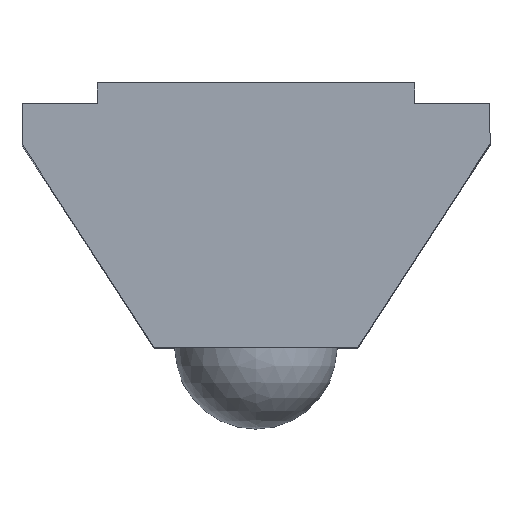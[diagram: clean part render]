
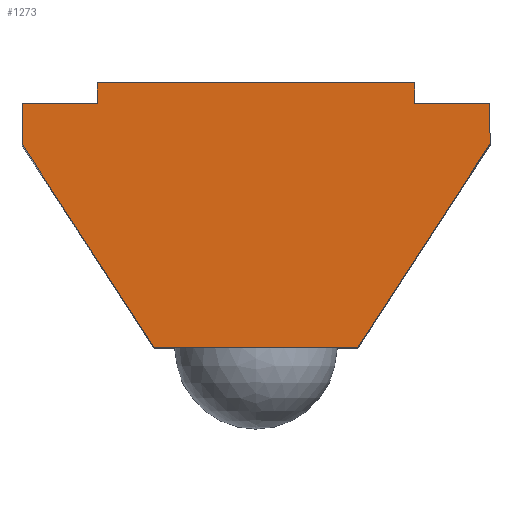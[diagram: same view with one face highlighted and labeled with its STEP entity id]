
A CAD part, top view. The second image highlights one B-rep face of the part: STEP entity #1273.
In plain terms, the highlighted planar face has unit normal (0, 0, 1).
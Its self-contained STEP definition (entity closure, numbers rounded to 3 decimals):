
#41 = LINE ( 'NONE', #2042, #3084 ) ;
#78 = CARTESIAN_POINT ( 'NONE',  ( -5.748, 5., 10. ) ) ;
#120 = CARTESIAN_POINT ( 'NONE',  ( -5.748, 6., 10. ) ) ;
#134 = CARTESIAN_POINT ( 'NONE',  ( 5.752, 6., 10. ) ) ;
#135 = DIRECTION ( 'NONE',  ( 0., 1., 0. ) ) ;
#148 = VERTEX_POINT ( 'NONE', #2177 ) ;
#174 = VERTEX_POINT ( 'NONE', #1346 ) ;
#345 = LINE ( 'NONE', #3970, #1330 ) ;
#374 = ORIENTED_EDGE ( 'NONE', *, *, #2287, .T. ) ;
#411 = EDGE_LOOP ( 'NONE', ( #2084, #3698, #1623, #3915, #2563, #923, #3195, #3989, #3938, #374 ) ) ;
#419 = CARTESIAN_POINT ( 'NONE',  ( -3.898, 6.5, 10. ) ) ;
#498 = LINE ( 'NONE', #78, #2019 ) ;
#503 = VERTEX_POINT ( 'NONE', #419 ) ;
#557 = CARTESIAN_POINT ( 'NONE',  ( 5.752, 5., 10. ) ) ;
#703 = VECTOR ( 'NONE', #3746, 1000. ) ;
#816 = EDGE_CURVE ( 'NONE', #1854, #1733, #977, .T. ) ;
#818 = CARTESIAN_POINT ( 'NONE',  ( -2.5, 0., 10. ) ) ;
#831 = VERTEX_POINT ( 'NONE', #2956 ) ;
#868 = EDGE_CURVE ( 'NONE', #2696, #3467, #3760, .T. ) ;
#923 = ORIENTED_EDGE ( 'NONE', *, *, #3054, .T. ) ;
#926 = EDGE_CURVE ( 'NONE', #174, #148, #3667, .T. ) ;
#964 = EDGE_CURVE ( 'NONE', #831, #1227, #2449, .T. ) ;
#977 = LINE ( 'NONE', #557, #3046 ) ;
#1227 = VERTEX_POINT ( 'NONE', #2694 ) ;
#1273 = ADVANCED_FACE ( 'NONE', ( #1913 ), #3323, .F. ) ;
#1306 = DIRECTION ( 'NONE',  ( 1., 0., 0. ) ) ;
#1330 = VECTOR ( 'NONE', #3565, 1000. ) ;
#1346 = CARTESIAN_POINT ( 'NONE',  ( -5.748, 6., 10. ) ) ;
#1438 = VECTOR ( 'NONE', #1306, 1000. ) ;
#1564 = VERTEX_POINT ( 'NONE', #2426 ) ;
#1616 = DIRECTION ( 'NONE',  ( 0., -1., 0. ) ) ;
#1620 = DIRECTION ( 'NONE',  ( 0.545, 0.838, 0. ) ) ;
#1622 = AXIS2_PLACEMENT_3D ( 'NONE', #2914, #2501, #2092 ) ;
#1623 = ORIENTED_EDGE ( 'NONE', *, *, #868, .T. ) ;
#1726 = CARTESIAN_POINT ( 'NONE',  ( 3.902, 6.5, 10. ) ) ;
#1733 = VERTEX_POINT ( 'NONE', #134 ) ;
#1805 = DIRECTION ( 'NONE',  ( 0., -1., 0. ) ) ;
#1854 = VERTEX_POINT ( 'NONE', #2858 ) ;
#1913 = FACE_OUTER_BOUND ( 'NONE', #411, .T. ) ;
#2019 = VECTOR ( 'NONE', #3704, 1000. ) ;
#2038 = CARTESIAN_POINT ( 'NONE',  ( 3.902, 6.5, 10. ) ) ;
#2042 = CARTESIAN_POINT ( 'NONE',  ( 2.5, 0., 10. ) ) ;
#2084 = ORIENTED_EDGE ( 'NONE', *, *, #926, .T. ) ;
#2092 = DIRECTION ( 'NONE',  ( -1., 0., 0. ) ) ;
#2135 = DIRECTION ( 'NONE',  ( 1., 0., 0. ) ) ;
#2144 = LINE ( 'NONE', #1726, #1438 ) ;
#2177 = CARTESIAN_POINT ( 'NONE',  ( -5.748, 5., 10. ) ) ;
#2215 = CARTESIAN_POINT ( 'NONE',  ( -3.898, 6.5, 10. ) ) ;
#2223 = VECTOR ( 'NONE', #1616, 1000. ) ;
#2287 = EDGE_CURVE ( 'NONE', #1564, #174, #345, .T. ) ;
#2426 = CARTESIAN_POINT ( 'NONE',  ( -3.898, 6., 10. ) ) ;
#2449 = LINE ( 'NONE', #2038, #2223 ) ;
#2488 = EDGE_CURVE ( 'NONE', #503, #831, #2144, .T. ) ;
#2501 = DIRECTION ( 'NONE',  ( 0., 0., -1. ) ) ;
#2543 = CARTESIAN_POINT ( 'NONE',  ( -2.5, 0., 10. ) ) ;
#2563 = ORIENTED_EDGE ( 'NONE', *, *, #816, .T. ) ;
#2564 = VECTOR ( 'NONE', #1805, 1000. ) ;
#2625 = LINE ( 'NONE', #2215, #2564 ) ;
#2694 = CARTESIAN_POINT ( 'NONE',  ( 3.902, 6., 10. ) ) ;
#2696 = VERTEX_POINT ( 'NONE', #818 ) ;
#2858 = CARTESIAN_POINT ( 'NONE',  ( 5.752, 5., 10. ) ) ;
#2859 = DIRECTION ( 'NONE',  ( 0., -1., 0. ) ) ;
#2914 = CARTESIAN_POINT ( 'NONE',  ( 0., 0., 10. ) ) ;
#2940 = EDGE_CURVE ( 'NONE', #503, #1564, #2625, .T. ) ;
#2956 = CARTESIAN_POINT ( 'NONE',  ( 3.902, 6.5, 10. ) ) ;
#3036 = LINE ( 'NONE', #120, #703 ) ;
#3046 = VECTOR ( 'NONE', #135, 1000. ) ;
#3054 = EDGE_CURVE ( 'NONE', #1733, #1227, #3036, .T. ) ;
#3056 = CARTESIAN_POINT ( 'NONE',  ( 2.5, 0., 10. ) ) ;
#3084 = VECTOR ( 'NONE', #1620, 1000. ) ;
#3165 = EDGE_CURVE ( 'NONE', #148, #2696, #498, .T. ) ;
#3195 = ORIENTED_EDGE ( 'NONE', *, *, #964, .F. ) ;
#3255 = VECTOR ( 'NONE', #2135, 1000. ) ;
#3270 = CARTESIAN_POINT ( 'NONE',  ( -5.748, 5., 10. ) ) ;
#3323 = PLANE ( 'NONE',  #1622 ) ;
#3467 = VERTEX_POINT ( 'NONE', #3056 ) ;
#3516 = EDGE_CURVE ( 'NONE', #3467, #1854, #41, .T. ) ;
#3559 = VECTOR ( 'NONE', #2859, 1000. ) ;
#3565 = DIRECTION ( 'NONE',  ( -1., 0., 0. ) ) ;
#3667 = LINE ( 'NONE', #3270, #3559 ) ;
#3698 = ORIENTED_EDGE ( 'NONE', *, *, #3165, .T. ) ;
#3704 = DIRECTION ( 'NONE',  ( 0.545, -0.839, 0. ) ) ;
#3746 = DIRECTION ( 'NONE',  ( -1., 0., 0. ) ) ;
#3760 = LINE ( 'NONE', #2543, #3255 ) ;
#3915 = ORIENTED_EDGE ( 'NONE', *, *, #3516, .T. ) ;
#3938 = ORIENTED_EDGE ( 'NONE', *, *, #2940, .T. ) ;
#3970 = CARTESIAN_POINT ( 'NONE',  ( -5.748, 6., 10. ) ) ;
#3989 = ORIENTED_EDGE ( 'NONE', *, *, #2488, .F. ) ;
